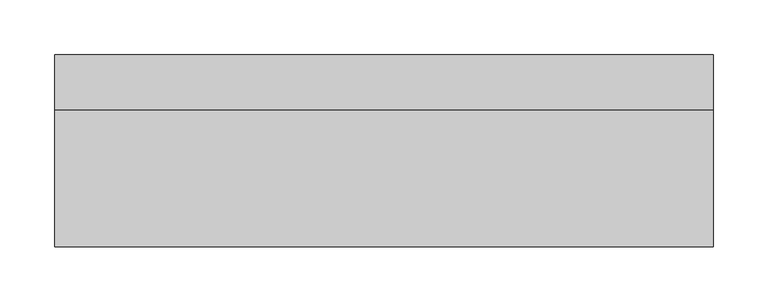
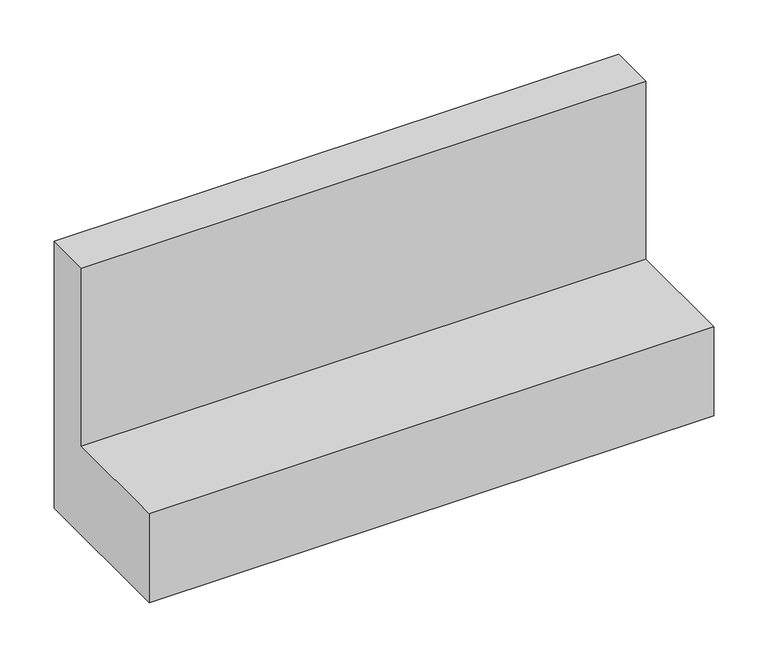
"""IFC4 building model written with IfcOpenShell, lengths in millimetres: proxy geometry, Módulo L de Concreto Celular - Celucon : MLCC 17,5x30x60cm (L x A x C)."""

from ifc_helpers import new_model, si_unit, frame, origin, place, context, project, spatial, polyline, outline, extrude, source, transform, mapped, element, save


def generic_models_67e4d045(model_context):
    return source(origin(), model_context, "Body", "SweptSolid", [
        extrude(outline(polyline([(87.5, 0.0), (-87.5, 0.0), (-87.5, 100.0), (37.5, 100.0), (37.5, 300.0), (87.5, 300.0), (87.5, 0.0)])), frame((-300.0, 0.0, 0.0), z_axis=(1.0, 0.0, 0.0), x_axis=(0.0, 1.0, 0.0)), (0.0, 0.0, 1.0), 600.0),
    ])


if __name__ == "__main__":
    model = new_model("IFC4")
    model_context = context("Model", 3, world=origin())
    ifc_project = project(units=[si_unit("LENGTHUNIT", "METRE", prefix="MILLI")], contexts=[model_context])
    site = spatial("IfcSite", under=ifc_project)
    building = spatial("IfcBuilding", under=site)
    placement = place(None, origin())
    generic_models_shape = generic_models_67e4d045(model_context)
    element("IfcBuildingElementProxy", 1, Name="Módulo L de Concreto Celular - Celucon : MLCC 17,5x30x60cm (L x A x C)", ObjectType="Módulo L de Concreto Celular - Celucon : MLCC 17,5x30x60cm (L x A x C)", at=placement, inside=building, context=model_context, shape_type="MappedRepresentation", body=[
        mapped(generic_models_shape, transform((0.0, 0.0, 0.0), x_axis=(1.0, 0.0, 0.0), y_axis=(0.0, 1.0, 0.0), z_axis=(0.0, 0.0, 1.0))),
    ])
    save(model, "model.ifc")
